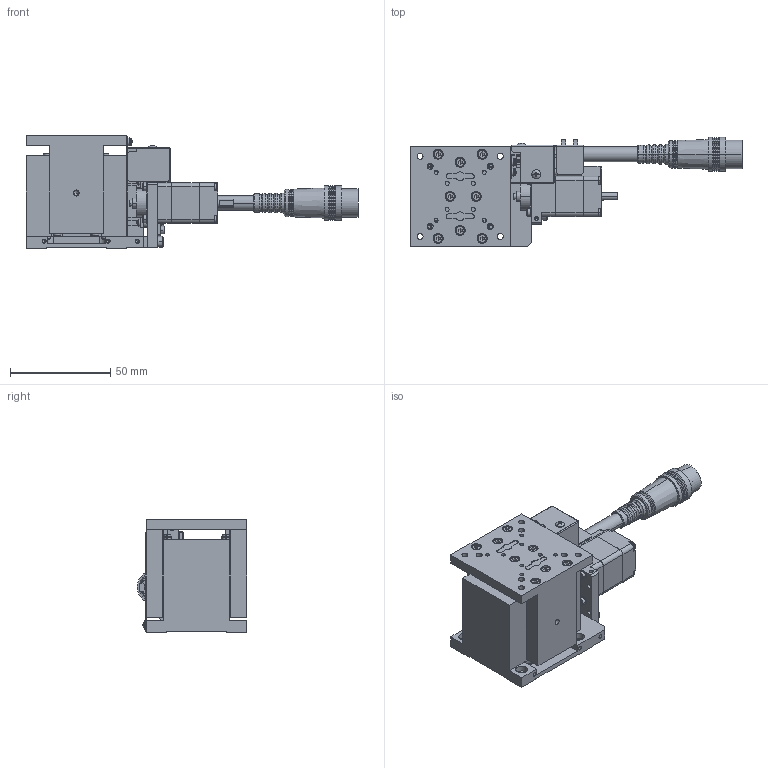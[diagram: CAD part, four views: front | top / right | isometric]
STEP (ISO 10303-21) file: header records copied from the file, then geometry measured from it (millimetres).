
FILE_DESCRIPTION (( 'STEP AP203' ), '1' );
FILE_NAME ('ZA05A-W101.STEP', '2019-02-21T00:44:35', ( '' ), ( '' ), 'SwSTEP 2.0', 'SolidWorks 2018', '' );
FILE_SCHEMA (( 'CONFIG_CONTROL_DESIGN' ));
Length unit declared in the file: millimetre
Products named in the file (6): base-Part-2; ZA05A-W101; table; base-Part-1; base; base-Part-3
Assembly tree (5 placements, depth 3):
  ZA05A-W101
    base
      base-Part-1
      base-Part-2
      base-Part-3
    table
Bounding box: 165.5 x 54.5 x 56 mm (x, y, z)
Volume: 140370.5 mm3; surface area: 51742.4 mm2
Topology: 4 solids, 5 shells, 1802 faces, 4402 edges, 2693 vertices
Faces by surface type: plane 1133, cylinder 385, cone 174, torus 98, sphere 12
Entity records: 52607 total; most frequent: DIRECTION 9273, CARTESIAN_POINT 8982, ORIENTED_EDGE 8628, EDGE_CURVE 4314, AXIS2_PLACEMENT_3D 3172, LINE 2929, VECTOR 2929, VERTEX_POINT 2683
